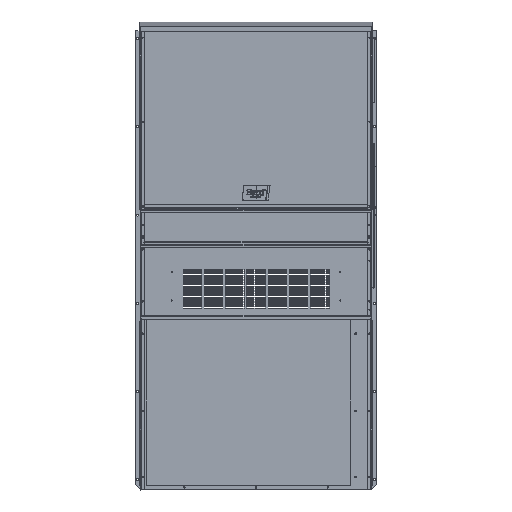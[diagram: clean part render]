
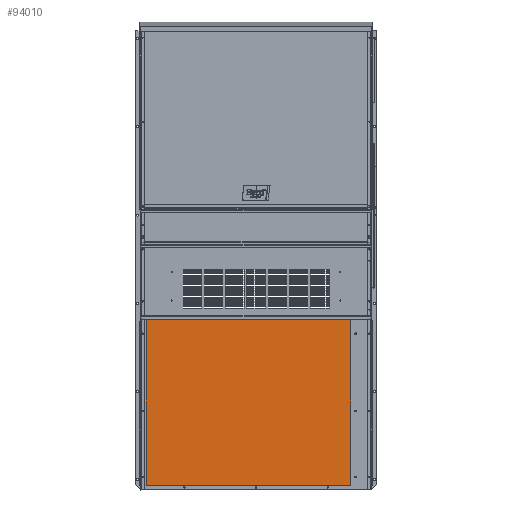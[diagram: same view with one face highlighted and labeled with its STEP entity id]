
A CAD part, top view. The second image highlights one B-rep face of the part: STEP entity #94010.
In plain terms, the highlighted planar face has unit normal (0, 0, 1).
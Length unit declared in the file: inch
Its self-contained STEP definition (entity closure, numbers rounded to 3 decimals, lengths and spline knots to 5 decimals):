
#473 = FACE_OUTER_BOUND ( 'NONE', #122023, .T. ) ;
#4622 = DIRECTION ( 'NONE',  ( 0., 0., -1. ) ) ;
#11749 = VECTOR ( 'NONE', #146679, 39.37008 ) ;
#12051 = LINE ( 'NONE', #134054, #11749 ) ;
#12899 = VERTEX_POINT ( 'NONE', #42763 ) ;
#15559 = CARTESIAN_POINT ( 'NONE',  ( 22.4907, 0.80054, 0.13874 ) ) ;
#27534 = VECTOR ( 'NONE', #41033, 39.37008 ) ;
#27687 = LINE ( 'NONE', #15559, #27534 ) ;
#41033 = DIRECTION ( 'NONE',  ( -1., 0., 0. ) ) ;
#42763 = CARTESIAN_POINT ( 'NONE',  ( -19.86992, 30.85454, 0.13874 ) ) ;
#42958 = VECTOR ( 'NONE', #86198, 39.37008 ) ;
#43422 = LINE ( 'NONE', #73381, #42958 ) ;
#47326 = EDGE_CURVE ( 'NONE', #12899, #136849, #71148, .T. ) ;
#48565 = EDGE_CURVE ( 'NONE', #136849, #91129, #43422, .T. ) ;
#49275 = EDGE_CURVE ( 'NONE', #91129, #87914, #27687, .T. ) ;
#49999 = EDGE_CURVE ( 'NONE', #87914, #12899, #12051, .T. ) ;
#60183 = CARTESIAN_POINT ( 'NONE',  ( 17.20308, 0.80054, 0.13874 ) ) ;
#64712 = CARTESIAN_POINT ( 'NONE',  ( -19.86992, 0.80054, 0.13874 ) ) ;
#68189 = PLANE ( 'NONE',  #76362 ) ;
#70695 = VECTOR ( 'NONE', #132728, 39.37008 ) ;
#71148 = LINE ( 'NONE', #145895, #70695 ) ;
#73381 = CARTESIAN_POINT ( 'NONE',  ( 17.20308, 6.24114, 0.13874 ) ) ;
#76362 = AXIS2_PLACEMENT_3D ( 'NONE', #81064, #4622, #93762 ) ;
#81064 = CARTESIAN_POINT ( 'NONE',  ( 22.4907, 6.24114, 0.13874 ) ) ;
#83208 = ORIENTED_EDGE ( 'NONE', *, *, #48565, .F. ) ;
#86198 = DIRECTION ( 'NONE',  ( 0., -1., 0. ) ) ;
#86742 = CARTESIAN_POINT ( 'NONE',  ( 17.20308, 30.85454, 0.13874 ) ) ;
#87914 = VERTEX_POINT ( 'NONE', #64712 ) ;
#91129 = VERTEX_POINT ( 'NONE', #60183 ) ;
#93762 = DIRECTION ( 'NONE',  ( -1., 0., 0. ) ) ;
#94010 = ADVANCED_FACE ( 'NONE', ( #473 ), #68189, .F. ) ;
#121163 = ORIENTED_EDGE ( 'NONE', *, *, #49275, .F. ) ;
#122023 = EDGE_LOOP ( 'NONE', ( #121163, #83208, #127011, #144798 ) ) ;
#127011 = ORIENTED_EDGE ( 'NONE', *, *, #47326, .F. ) ;
#132728 = DIRECTION ( 'NONE',  ( 1., 0., 0. ) ) ;
#134054 = CARTESIAN_POINT ( 'NONE',  ( -19.86992, 6.24114, 0.13874 ) ) ;
#136849 = VERTEX_POINT ( 'NONE', #86742 ) ;
#144798 = ORIENTED_EDGE ( 'NONE', *, *, #49999, .F. ) ;
#145895 = CARTESIAN_POINT ( 'NONE',  ( 22.4907, 30.85454, 0.13874 ) ) ;
#146679 = DIRECTION ( 'NONE',  ( 0., 1., 0. ) ) ;
